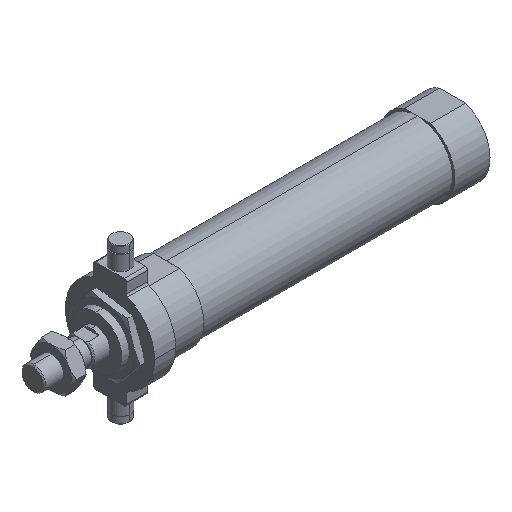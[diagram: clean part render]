
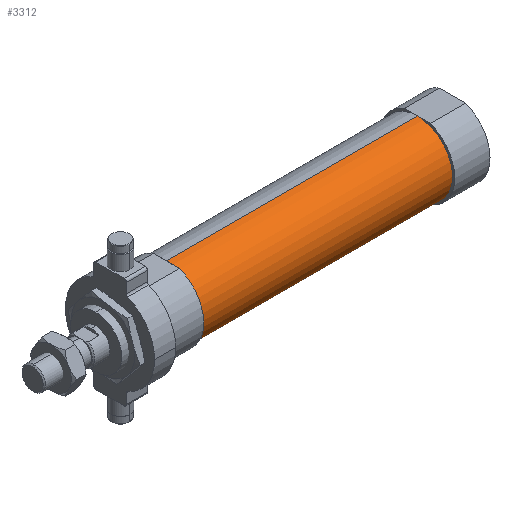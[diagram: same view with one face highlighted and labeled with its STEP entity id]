
A CAD part, isometric view. The second image highlights one B-rep face of the part: STEP entity #3312.
In plain terms, the highlighted cylindrical face has radius 15 mm (diameter 30 mm), a partial arc.
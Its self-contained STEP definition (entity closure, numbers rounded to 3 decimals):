
#512 = VERTEX_POINT ( 'NONE', #1583 ) ;
#612 = DIRECTION ( 'NONE',  ( -1., 0., 0. ) ) ;
#625 = EDGE_CURVE ( 'NONE', #1557, #3293, #2139, .T. ) ;
#888 = EDGE_LOOP ( 'NONE', ( #2810, #2726, #1770, #3795 ) ) ;
#925 = VECTOR ( 'NONE', #3122, 1000. ) ;
#1128 = EDGE_CURVE ( 'NONE', #3293, #512, #3630, .T. ) ;
#1436 = DIRECTION ( 'NONE',  ( -1., 0., 0. ) ) ;
#1452 = FACE_OUTER_BOUND ( 'NONE', #888, .T. ) ;
#1460 = CARTESIAN_POINT ( 'NONE',  ( 57., 0., 0. ) ) ;
#1557 = VERTEX_POINT ( 'NONE', #1605 ) ;
#1583 = CARTESIAN_POINT ( 'NONE',  ( 57., 0., 15. ) ) ;
#1605 = CARTESIAN_POINT ( 'NONE',  ( 164., 0., -15. ) ) ;
#1770 = ORIENTED_EDGE ( 'NONE', *, *, #4345, .T. ) ;
#1811 = LINE ( 'NONE', #3151, #925 ) ;
#1832 = CARTESIAN_POINT ( 'NONE',  ( -6.469, 0., 0. ) ) ;
#1882 = AXIS2_PLACEMENT_3D ( 'NONE', #1832, #2177, #2804 ) ;
#2139 = LINE ( 'NONE', #3682, #3036 ) ;
#2177 = DIRECTION ( 'NONE',  ( -1., 0., 0. ) ) ;
#2249 = CYLINDRICAL_SURFACE ( 'NONE', #1882, 15. ) ;
#2363 = VERTEX_POINT ( 'NONE', #3123 ) ;
#2523 = EDGE_CURVE ( 'NONE', #1557, #2363, #2950, .T. ) ;
#2726 = ORIENTED_EDGE ( 'NONE', *, *, #2523, .T. ) ;
#2743 = DIRECTION ( 'NONE',  ( -1., 0., 0. ) ) ;
#2804 = DIRECTION ( 'NONE',  ( 0., 0., 1. ) ) ;
#2810 = ORIENTED_EDGE ( 'NONE', *, *, #625, .F. ) ;
#2885 = AXIS2_PLACEMENT_3D ( 'NONE', #1460, #1436, #3806 ) ;
#2950 = CIRCLE ( 'NONE', #3599, 15. ) ;
#3036 = VECTOR ( 'NONE', #612, 1000. ) ;
#3119 = CARTESIAN_POINT ( 'NONE',  ( 164., 0., 0. ) ) ;
#3122 = DIRECTION ( 'NONE',  ( -1., 0., 0. ) ) ;
#3123 = CARTESIAN_POINT ( 'NONE',  ( 164., 0., 15. ) ) ;
#3151 = CARTESIAN_POINT ( 'NONE',  ( -6.469, 0., 15. ) ) ;
#3293 = VERTEX_POINT ( 'NONE', #4115 ) ;
#3312 = ADVANCED_FACE ( 'NONE', ( #1452 ), #2249, .T. ) ;
#3599 = AXIS2_PLACEMENT_3D ( 'NONE', #3119, #2743, #3739 ) ;
#3630 = CIRCLE ( 'NONE', #2885, 15. ) ;
#3682 = CARTESIAN_POINT ( 'NONE',  ( -6.469, 0., -15. ) ) ;
#3739 = DIRECTION ( 'NONE',  ( 0., 0., 1. ) ) ;
#3795 = ORIENTED_EDGE ( 'NONE', *, *, #1128, .F. ) ;
#3806 = DIRECTION ( 'NONE',  ( 0., 0., 1. ) ) ;
#4115 = CARTESIAN_POINT ( 'NONE',  ( 57., 0., -15. ) ) ;
#4345 = EDGE_CURVE ( 'NONE', #2363, #512, #1811, .T. ) ;
